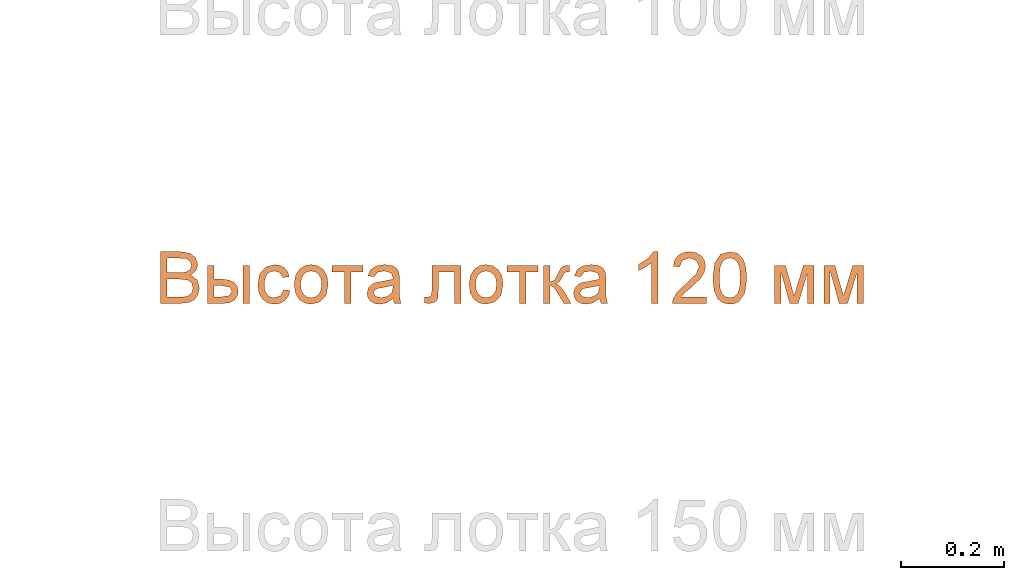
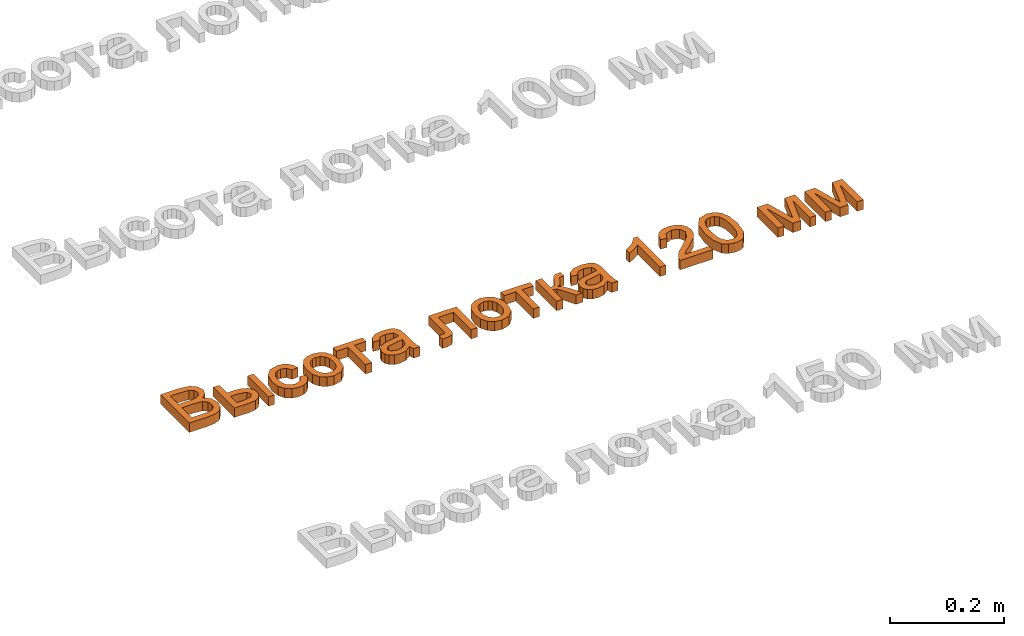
# One storey, part 14 of 71: 1 proxy.
"""IFC2X3 building model written with IfcOpenShell, lengths in millimetres."""

from ifc_helpers import new_model, entity, si_unit, converted_unit, derived_unit, direction, frame, frame_2d, origin, place, context, subcontext, project, spatial, polyline, rectangle, outline, extrude, element, save


model = new_model("IFC2X3")

# Units and contexts
model_context = context("Model", 3, precision=0.01, world=origin(), true_north=direction((6.12303176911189e-17, 1.0)))
body_context = subcontext(model_context, "Body", "Model", "MODEL_VIEW")
ifc_project = project(units=[si_unit("LENGTHUNIT", "METRE", prefix="MILLI"), si_unit("AREAUNIT", "SQUARE_METRE"), si_unit("VOLUMEUNIT", "CUBIC_METRE"), converted_unit("PLANEANGLEUNIT", "DEGREE", entity("IfcRatioMeasure", 0.0174532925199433), si_unit("PLANEANGLEUNIT", "RADIAN"), dimensions=[0, 0, 0, 0, 0, 0, 0]), si_unit("MASSUNIT", "GRAM", prefix="KILO"), derived_unit("MASSDENSITYUNIT", [(si_unit("MASSUNIT", "GRAM", prefix="KILO"), 1), (si_unit("LENGTHUNIT", "METRE"), -3)]), si_unit("TIMEUNIT", "SECOND"), si_unit("FREQUENCYUNIT", "HERTZ"), si_unit("THERMODYNAMICTEMPERATUREUNIT", "DEGREE_CELSIUS"), derived_unit("THERMALTRANSMITTANCEUNIT", [(si_unit("MASSUNIT", "GRAM", prefix="KILO"), 1), (si_unit("THERMODYNAMICTEMPERATUREUNIT", "KELVIN"), -1), (si_unit("TIMEUNIT", "SECOND"), -3)]), derived_unit("VOLUMETRICFLOWRATEUNIT", [(si_unit("LENGTHUNIT", "METRE"), 3), (si_unit("TIMEUNIT", "SECOND"), -1)]), si_unit("ELECTRICCURRENTUNIT", "AMPERE"), si_unit("ELECTRICVOLTAGEUNIT", "VOLT"), si_unit("POWERUNIT", "WATT"), si_unit("FORCEUNIT", "NEWTON", prefix="KILO"), si_unit("ILLUMINANCEUNIT", "LUX"), si_unit("LUMINOUSFLUXUNIT", "LUMEN"), si_unit("LUMINOUSINTENSITYUNIT", "CANDELA"), derived_unit("USERDEFINED", [(si_unit("MASSUNIT", "GRAM", prefix="KILO"), -1), (si_unit("LENGTHUNIT", "METRE"), -2), (si_unit("TIMEUNIT", "SECOND"), 3), (si_unit("LUMINOUSFLUXUNIT", "LUMEN"), 1)]), derived_unit("LINEARVELOCITYUNIT", [(si_unit("LENGTHUNIT", "METRE"), 1), (si_unit("TIMEUNIT", "SECOND"), -1)]), si_unit("PRESSUREUNIT", "PASCAL"), derived_unit("USERDEFINED", [(si_unit("LENGTHUNIT", "METRE"), -2), (si_unit("MASSUNIT", "GRAM", prefix="KILO"), 1), (si_unit("TIMEUNIT", "SECOND"), -2)])], contexts=[model_context])

# Site, building, storey
site_placement = place(None, origin())
site = spatial("IfcSite", under=ifc_project, at=site_placement, Name="Default", CompositionType="ELEMENT")
building_placement = place(site_placement, origin())
building = spatial("IfcBuilding", under=site, at=building_placement, Name="Наименование здания", CompositionType="ELEMENT")
storey_placement = place(building_placement, origin())
storey = spatial("IfcBuildingStorey", under=building, at=storey_placement, Name="Этаж 01", CompositionType="ELEMENT", Elevation=0.0)

# Proxy
proxy_placement = place(storey_placement, origin())
element("IfcBuildingElementProxy", 1, at=proxy_placement, inside=storey, Name="Текст модели:100 мм Arial", ObjectType="Текст модели:100 мм Arial", context=body_context, shape_type="SweptSolid", body=[
    extrude(outline(polyline([(-52.8068326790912, -48.6909338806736), (-14.7678343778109, -48.6909338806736), (1.33313427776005, -46.9618885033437), (12.2592295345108, -41.860591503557), (19.5800812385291, -32.2466086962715), (22.5353999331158, -18.7453394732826), (18.2066551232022, -3.12261741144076), (5.83355735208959, 6.24611073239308), (16.0238886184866, 15.1365922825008), (19.3961402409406, 26.8720279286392), (15.3862264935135, 39.7233722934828), (4.30071570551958, 48.8100575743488), (-14.4735287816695, 51.7653762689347), (-52.8068326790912, 51.7653762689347), (-52.8068326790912, -48.6909338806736)]), holes=[polyline([(-40.2497939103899, 10.9550002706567), (-40.2497939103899, 39.208337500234), (-19.0597909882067, 39.208337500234), (-2.92203413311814, 37.8962250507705), (4.31297843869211, 33.0524454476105), (6.83910147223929, 24.8609396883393), (4.12903744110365, 16.6816966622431), (-3.92757825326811, 12.0341207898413), (-17.3184828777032, 10.9550002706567), (-40.2497939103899, 10.9550002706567)]), polyline([(-40.2497939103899, -36.1338951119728), (-40.2497939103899, -1.60203849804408), (-15.7243275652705, -1.60203849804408), (-0.211970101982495, -3.28203294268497), (7.57486546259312, -9.10683119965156), (9.97836116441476, -18.8679668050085), (7.93048472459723, -27.3292526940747), (2.70656039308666, -32.9087962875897), (-5.17837703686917, -35.6433857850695), (-14.4980542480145, -36.1338951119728), (-40.2497939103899, -36.1338951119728)])]), frame((1889.87567637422, -12937.8794073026, 0.0)), (0.0, 0.0, 1.0), 20.0),
    extrude(outline(polyline([(-42.39887158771, -34.5139341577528), (31.3737311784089, -34.5139341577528), (31.3737311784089, -3.73447389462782), (29.653882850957, 9.31613988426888), (24.4943378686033, 18.2526066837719), (16.9129030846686, 23.4121516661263), (7.92738535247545, 25.1319999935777), (-1.9410491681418, 23.0810578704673), (-9.42438208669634, 16.9282315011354), (-14.1424686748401, 6.9862205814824), (-15.7151642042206, -6.43227519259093), (-15.7151642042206, -21.9568953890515), (-42.39887158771, -21.9568953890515), (-42.39887158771, -34.5139341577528)]), holes=[polyline([(18.8166924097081, -21.9568953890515), (-3.15812543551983, -21.9568953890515), (-3.15812543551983, -7.41329384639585), (0.226388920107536, 8.88387853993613), (7.95191081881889, 12.5749612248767), (16.1802047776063, 7.59629155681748), (18.8166924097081, -9.05650009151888), (18.8166924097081, -21.9568953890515)])]), frame((1962.62130892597, -12955.1966100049, 0.0), z_axis=(0.0, 0.0, 1.0), x_axis=(0.0, -1.0, 0.0)), (0.0, 0.0, 1.0), 20.0),
    extrude(outline(polyline([(0.2676831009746, -20.7200562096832), (-4.02278247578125, -32.6253015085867), (7.51957889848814, -34.5647704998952), (18.0242916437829, -32.5240986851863), (26.8500141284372, -26.8719753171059), (33.3554047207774, -17.9770896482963), (37.2076783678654, -4.95154901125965), (35.3403176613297, 7.71415747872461), (27.6846262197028, 19.1676933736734), (14.1719076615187, 28.5567222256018), (-6.16200624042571, 34.5864889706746), (-23.4110955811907, 30.2307841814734), (-35.1302422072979, 17.0254849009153), (-38.5714296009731, 6.8723113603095), (-38.3156698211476, -2.77330902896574), (-34.4593562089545, -11.5597521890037), (-27.0988821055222, -19.1353940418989), (-20.0099089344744, -8.6525785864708), (-25.7552259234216, 0.801697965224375), (-23.9806627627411, 11.248312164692), (-18.9208808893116, 17.7794646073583), (-11.8538304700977, 21.4126833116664), (-2.81100512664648, 21.5312059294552), (8.17610151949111, 17.5182701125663), (18.0468481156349, 10.9639331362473), (23.3470531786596, 3.65828147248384), (24.6053297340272, -4.07586677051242), (22.3502908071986, -11.9156934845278), (13.555852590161, -20.7200562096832), (0.2676831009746, -20.7200562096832)])), frame((2057.30288009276, -12950.2595425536, 0.0), z_axis=(0.0, 0.0, -1.0), x_axis=(-0.45310996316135, -0.891454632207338, 0.0)), (0.0, 0.0, -1.0), 20.0),
    extrude(outline(polyline([(-2.34029740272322, -31.6984909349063), (14.273181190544, -31.6984909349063), (27.1869525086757, -26.5873672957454), (35.9909592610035, -17.1811275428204), (40.2751441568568, -4.2957792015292), (38.1491713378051, 13.1690451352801), (27.2514955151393, 26.6485362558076), (5.6779791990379, 33.7446283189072), (-10.1280544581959, 33.6081083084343), (-22.8059382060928, 28.3900569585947), (-31.6389568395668, 18.97545318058), (-35.910395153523, 6.24927588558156), (-35.5406401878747, -5.97109031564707), (-30.853588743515, -16.7835237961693), (-19.58701217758, -26.5692340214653), (-2.34029740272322, -31.6984909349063)]), holes=[polyline([(-0.642949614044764, -19.2566729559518), (-11.6948097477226, -16.259966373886), (-19.0989004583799, -10.8341828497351), (-22.982263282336, -3.6735675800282), (-23.4719397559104, 4.52763423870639), (-20.7783225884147, 12.2046648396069), (-15.078178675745, 18.0357050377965), (-6.56600936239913, 21.286328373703), (4.56368400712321, 21.2221083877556), (15.8675929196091, 18.190515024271), (23.3961896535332, 12.7474982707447), (27.3267847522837, 5.5927250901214), (27.8366887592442, -2.57413755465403), (25.1317228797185, -10.3331599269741), (19.4311586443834, -16.1672368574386), (10.8134498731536, -19.3753979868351), (-0.642949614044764, -19.2566729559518)])]), frame((2127.77778019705, -12947.6561924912, 0.0), z_axis=(0.0, 0.0, 1.0), x_axis=(0.13710570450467, -0.990556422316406, 0.0)), (0.0, 0.0, 1.0), 20.0),
    extrude(outline(polyline([(-24.7216700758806, -29.8229670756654), (-12.1646313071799, -29.8229670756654), (-12.1646313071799, -6.27851938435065), (49.0509326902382, -6.27851938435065), (49.0509326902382, 6.27851938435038), (-12.1646313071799, 6.27851938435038), (-12.1646313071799, 29.8229670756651), (-24.7216700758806, 29.8229670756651), (-24.7216700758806, -29.8229670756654)])), frame((2199.65333814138, -12937.519408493, 0.0), z_axis=(0.0, 0.0, 1.0), x_axis=(0.0, -1.0, 0.0)), (0.0, 0.0, 1.0), 20.0),
    extrude(outline(polyline([(32.0508237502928, 7.88266535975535), (41.9780345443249, 7.88266535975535), (45.9489188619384, 19.795318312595), (35.1414436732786, 20.7608946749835), (14.243889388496, 27.0545912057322), (-0.577126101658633, 31.9949297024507), (-11.1945882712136, 34.8877809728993), (-20.4974705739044, 33.9299602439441), (-28.5323068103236, 27.547073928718), (-35.4619652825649, 13.815724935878), (-38.3044049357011, -2.69989645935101), (-34.9462156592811, -15.3493345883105), (-25.0306383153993, -24.3807697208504), (-19.5706723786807, -12.9644773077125), (-25.7868125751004, -4.5069590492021), (-24.0611841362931, 8.30922519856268), (-16.2279943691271, 20.3304570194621), (-6.33956174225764, 20.6794605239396), (-3.71040200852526, 19.7255176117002), (-6.5024300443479, -2.30048133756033), (-8.14662433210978, -13.2049019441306), (-7.01817966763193, -22.849032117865), (-2.17478658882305, -31.1204151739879), (6.48825595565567, -36.5416029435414), (15.0010331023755, -37.7020395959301), (22.9495879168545, -35.3200906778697), (29.6378522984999, -29.3899394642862), (34.3697581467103, -19.905769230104), (36.2737661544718, -6.36055543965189), (32.0508237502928, 7.88266535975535)]), holes=[polyline([(8.22551784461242, 15.8244339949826), (11.5759514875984, 14.6300664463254), (20.1614376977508, 9.67421668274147), (24.469692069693, -0.396473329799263), (23.3024692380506, -13.3987927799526), (17.2491973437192, -22.9498553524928), (9.62153186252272, -24.3497471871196), (5.5808468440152, -21.1932043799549), (3.98706417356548, -15.5044472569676), (5.4722679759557, -4.61166010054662), (8.22551784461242, 15.8244339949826)])]), frame((2269.93909615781, -12949.2391985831, 0.0), z_axis=(0.0, 0.0, 1.0), x_axis=(0.316227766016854, -0.948683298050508, 0.0)), (0.0, 0.0, 1.0), 20.0),
    extrude(outline(polyline([(-49.3689973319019, 12.5447760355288), (-49.3689973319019, -43.9618984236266), (24.3300290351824, -43.9618984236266), (24.3300290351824, -31.4048596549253), (-36.8119585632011, -31.4048596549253), (-36.8119585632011, -0.0122627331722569), (-1.61791435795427, -0.0122627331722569), (14.6179443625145, 0.833865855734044), (21.4728122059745, 5.48144172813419), (24.403605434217, 16.4688506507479), (23.7659433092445, 26.6714446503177), (11.8465666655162, 26.6714446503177), (11.8465666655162, 21.0551128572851), (11.0740144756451, 15.37746739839), (8.62146784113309, 13.1088617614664), (-2.32915288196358, 12.5447760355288), (-49.3689973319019, 12.5447760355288)])), frame((2375.43961817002, -12962.1667357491, 0.0), z_axis=(0.0, 0.0, -1.0), x_axis=(0.0, -1.0, 0.0)), (0.0, 0.0, -1.0), 20.0),
    extrude(outline(polyline([(-2.34029740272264, -31.6984909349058), (14.2731811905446, -31.6984909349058), (27.1869525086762, -26.5873672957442), (35.9909592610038, -17.1811275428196), (40.275144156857, -4.29577920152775), (38.1491713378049, 13.169045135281), (27.2514955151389, 26.6485362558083), (5.67797919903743, 33.7446283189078), (-10.1280544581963, 33.6081083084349), (-22.8059382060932, 28.3900569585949), (-31.6389568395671, 18.9754531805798), (-35.910395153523, 6.24927588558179), (-35.5406401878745, -5.97109031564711), (-30.8535887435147, -16.7835237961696), (-19.5870121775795, -26.5692340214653), (-2.34029740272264, -31.6984909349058)]), holes=[polyline([(-0.642949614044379, -19.2566729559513), (-11.6948097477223, -16.2599663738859), (-19.0989004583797, -10.8341828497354), (-22.9822632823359, -3.67356758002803), (-23.4719397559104, 4.52763423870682), (-20.7783225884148, 12.2046648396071), (-15.0781786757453, 18.0357050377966), (-6.56600936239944, 21.2863283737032), (4.5636840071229, 21.2221083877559), (15.8675929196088, 18.1905150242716), (23.3961896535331, 12.7474982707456), (27.3267847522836, 5.5927250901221), (27.8366887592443, -2.57413755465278), (25.1317228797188, -10.3331599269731), (19.4311586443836, -16.1672368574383), (10.813449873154, -19.3753979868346), (-0.642949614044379, -19.2566729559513)])]), frame((2466.81782695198, -12947.6561924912, 0.0), z_axis=(0.0, 0.0, 1.0), x_axis=(0.137105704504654, -0.990556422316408, 0.0)), (0.0, 0.0, 1.0), 20.0),
    extrude(outline(polyline([(-24.7216700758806, -29.8229670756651), (-12.1646313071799, -29.8229670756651), (-12.1646313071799, -6.27851938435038), (49.0509326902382, -6.27851938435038), (49.0509326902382, 6.27851938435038), (-12.1646313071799, 6.27851938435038), (-12.1646313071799, 29.8229670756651), (-24.7216700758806, 29.8229670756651), (-24.7216700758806, -29.8229670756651)])), frame((2538.69338489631, -12937.519408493, 0.0), z_axis=(0.0, 0.0, 1.0), x_axis=(0.0, -1.0, 0.0)), (0.0, 0.0, 1.0), 20.0),
    extrude(outline(polyline([(-30.32957123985, -29.5353037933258), (43.4430315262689, -29.5353037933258), (43.4430315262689, -16.9782650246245), (8.91117491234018, -16.9782650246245), (11.2288314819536, -10.2337617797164), (20.8060260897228, -3.61188586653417), (43.4430315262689, 9.55828956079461), (43.4430315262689, 23.8321109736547), (20.3155167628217, 10.3921554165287), (10.0209522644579, 2.61758258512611), (5.13425309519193, -5.30414304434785), (0.756457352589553, 1.79597946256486), (-8.18307513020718, 6.86048826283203), (-16.448157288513, 11.1769703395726), (-17.7725324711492, 17.3083369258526), (-17.6989560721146, 20.6928512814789), (-30.32957123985, 20.6928512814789), (-30.32957123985, 18.2893555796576), (-29.3730780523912, 9.10456843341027), (-25.6819953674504, 4.05232236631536), (-14.3389671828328, -1.67437402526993), (-1.19331722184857, -8.56603006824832), (1.06302568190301, -16.9782650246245), (-30.32957123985, -16.9782650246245), (-30.32957123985, -29.5353037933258)])), frame((2609.03906468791, -12943.127309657, 0.0), z_axis=(0.0, 0.0, 1.0), x_axis=(0.0, -1.0, 0.0)), (0.0, 0.0, 1.0), 20.0),
    extrude(rectangle(XDim=73.7726027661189, YDim=12.5570387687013, at=frame_2d((1.08357767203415e-12, -2.70450328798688e-13), x_axis=(1.0, 0.0))), frame((2003.44960738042, -12949.6840398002, 0.0), z_axis=(0.0, 0.0, 1.0), x_axis=(0.0, -1.0, 0.0)), (0.0, 0.0, 1.0), 20.0),
    extrude(outline(polyline([(32.0508237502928, 7.88266535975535), (41.9780345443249, 7.88266535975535), (45.9489188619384, 19.795318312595), (35.1414436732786, 20.7608946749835), (14.243889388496, 27.0545912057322), (-0.577126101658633, 31.9949297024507), (-11.1945882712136, 34.8877809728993), (-20.4974705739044, 33.9299602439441), (-28.5323068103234, 27.5470739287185), (-35.4619652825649, 13.815724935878), (-38.3044049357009, -2.6998964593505), (-34.946215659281, -15.3493345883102), (-25.0306383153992, -24.3807697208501), (-19.5706723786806, -12.9644773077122), (-25.7868125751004, -4.5069590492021), (-24.0611841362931, 8.30922519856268), (-16.2279943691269, 20.3304570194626), (-6.33956174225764, 20.6794605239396), (-3.71040200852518, 19.7255176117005), (-6.50243004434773, -2.30048133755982), (-8.14662433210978, -13.2049019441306), (-7.01817966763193, -22.849032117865), (-2.17478658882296, -31.1204151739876), (6.48825595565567, -36.5416029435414), (15.0010331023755, -37.7020395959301), (22.9495879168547, -35.3200906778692), (29.6378522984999, -29.3899394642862), (34.3697581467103, -19.905769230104), (36.2737661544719, -6.36055543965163), (32.0508237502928, 7.88266535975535)]), holes=[polyline([(8.22551784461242, 15.8244339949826), (11.5759514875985, 14.6300664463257), (20.161437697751, 9.67421668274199), (24.4696920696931, -0.396473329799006), (23.3024692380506, -13.3987927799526), (17.2491973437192, -22.9498553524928), (9.62153186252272, -24.3497471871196), (5.58084684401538, -21.1932043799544), (3.98706417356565, -15.5044472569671), (5.4722679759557, -4.61166010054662), (8.22551784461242, 15.8244339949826)])]), frame((2670.19470691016, -12949.2391985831, 0.0), z_axis=(0.0, 0.0, 1.0), x_axis=(0.316227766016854, -0.948683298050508, 0.0)), (0.0, 0.0, 1.0), 20.0),
    extrude(outline(polyline([(-63.8793021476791, -16.9184842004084), (36.5770080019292, -16.9184842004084), (36.5770080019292, -8.82508030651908), (23.2106288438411, 2.34626961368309), (11.4629304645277, 20.752632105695), (-0.407395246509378, 20.752632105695), (5.93243780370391, 7.53340574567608), (14.405986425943, -4.36144543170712), (-63.8793021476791, -4.36144543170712), (-63.8793021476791, -16.9184842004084)])), frame((2783.90308499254, -12922.6910390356, 0.0), z_axis=(0.0, 0.0, 1.0), x_axis=(0.0, 1.0, 0.0)), (0.0, 0.0, 1.0), 20.0),
    extrude(outline(polyline([(-32.3858783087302, -45.1669477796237), (-32.3858783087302, -57.7239865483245), (33.5385752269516, -57.7239865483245), (32.1896745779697, -49.0664969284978), (24.5622545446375, -35.7369059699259), (8.84143061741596, -21.1810416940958), (-12.8390816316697, -0.260818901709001), (-18.259209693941, 13.9639515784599), (-13.1456499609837, 25.4786580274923), (0.208466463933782, 30.1752848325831), (14.1266686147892, 25.5890226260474), (19.4119066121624, 12.9093565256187), (31.9689453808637, 14.4789863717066), (28.9247218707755, 26.6252235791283), (22.3426998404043, 35.4973110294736), (12.5662358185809, 40.9235704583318), (-0.0613136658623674, 42.7323236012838), (-12.7808336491, 40.721235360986), (-22.5389035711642, 34.6879706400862), (-28.7469122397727, 25.6748617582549), (-30.8162484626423, 14.7242410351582), (-28.5844310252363, 2.81712712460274), (-21.1654774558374, -9.49465698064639), (-3.1760478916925, -26.6992716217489), (11.2694517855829, -38.7780637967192), (16.9348345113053, -45.1669477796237), (-32.3858783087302, -45.1669477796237)])), frame((2862.61348164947, -12928.846354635, 0.0), z_axis=(0.0, 0.0, -1.0), x_axis=(-1.0, 0.0, 0.0)), (0.0, 0.0, -1.0), 20.0),
    extrude(outline(polyline([(-7.02884310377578, -33.3490673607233), (17.5323805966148, -33.3490673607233), (35.198417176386, -27.6137612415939), (43.3439841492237, -18.4876517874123), (47.0516941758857, -5.75150665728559), (46.7162020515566, 4.48638208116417), (43.44657788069, 13.0955287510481), (27.9444305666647, 25.6659118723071), (-0.314338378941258, 32.23255354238), (-24.0296505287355, 32.3678288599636), (-39.4143020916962, 28.0260881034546), (-49.7293680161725, 18.9002174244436), (-54.4436715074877, 4.63998875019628), (-50.8676582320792, -14.1301059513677), (-35.4058547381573, -26.7333390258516), (-7.02884310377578, -33.3490673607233)]), holes=[polyline([(-5.77428774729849, -20.8548320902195), (-25.0157644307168, -17.3562860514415), (-36.7257089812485, -11.571792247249), (-41.0962588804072, -4.77599682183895), (-41.9669219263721, 3.2146479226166), (-39.2244253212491, 11.2791292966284), (-32.8654063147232, 17.2229259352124), (-20.9698370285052, 20.2947501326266), (-1.61768958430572, 19.7433141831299), (17.8514140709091, 16.2707701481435), (28.7803640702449, 10.7141596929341), (33.5546988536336, 3.61815959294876), (34.5599568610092, -4.47255337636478), (31.9421230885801, -12.1923199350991), (25.847182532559, -18.1754808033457), (14.0250679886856, -21.4027476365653), (-5.77428774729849, -20.8548320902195)])]), frame((2941.44793629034, -12940.7471642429, 0.0), z_axis=(0.0, 0.0, 1.0), x_axis=(0.101851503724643, -0.994799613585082, 0.0)), (0.0, 0.0, 1.0), 20.0),
    extrude(outline(polyline([(-40.5839870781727, -38.4502715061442), (33.1886156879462, -38.4502715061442), (33.1886156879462, -25.8932327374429), (-29.0570178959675, -25.8932327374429), (33.1886156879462, -8.62730443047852), (33.1886156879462, 7.85380895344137), (-26.2120637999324, 25.9045521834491), (33.1886156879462, 25.9045521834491), (33.1886156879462, 38.4615909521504), (-40.5839870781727, 38.4615909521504), (-40.5839870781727, 17.7620973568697), (18.4733358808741, -0.190544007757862), (-40.5839870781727, -16.8433356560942), (-40.5839870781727, -38.4502715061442)])), frame((3065.29853853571, -12953.3817254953, 0.0), z_axis=(0.0, 0.0, 1.0), x_axis=(0.0, -1.0, 0.0)), (0.0, 0.0, 1.0), 20.0),
    extrude(outline(polyline([(-40.5839870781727, -38.4502715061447), (33.1886156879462, -38.4502715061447), (33.1886156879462, -25.8932327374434), (-29.0570178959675, -25.8932327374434), (33.1886156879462, -8.6273044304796), (33.1886156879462, 7.85380895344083), (-26.2120637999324, 25.9045521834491), (33.1886156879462, 25.9045521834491), (33.1886156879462, 38.4615909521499), (-40.5839870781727, 38.4615909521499), (-40.5839870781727, 17.7620973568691), (18.4733358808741, -0.190544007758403), (-40.5839870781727, -16.8433356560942), (-40.5839870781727, -38.4502715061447)])), frame((3161.04595914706, -12953.3817254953, 0.0), z_axis=(0.0, 0.0, 1.0), x_axis=(0.0, -1.0, 0.0)), (0.0, 0.0, 1.0), 20.0),
])

save(model, "model.ifc")
